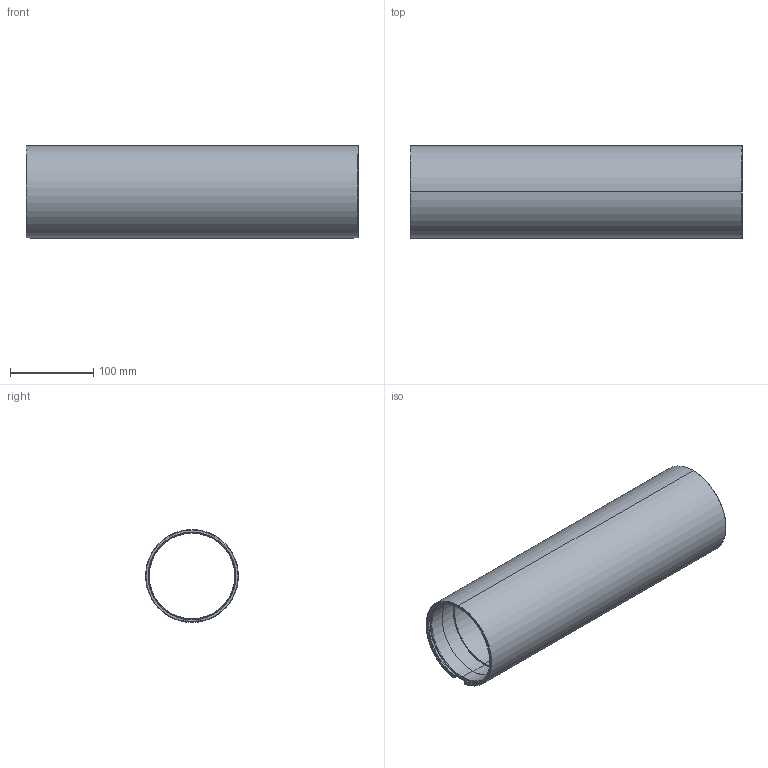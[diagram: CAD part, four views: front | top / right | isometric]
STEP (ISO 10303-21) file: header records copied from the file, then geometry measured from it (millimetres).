
FILE_DESCRIPTION (( 'STEP AP214' ), '1' );
FILE_NAME ('BR-100195-400_RevC.STEP', '2025-03-03T21:23:51', ( '' ), ( '' ), 'SwSTEP 2.0', 'SolidWorks 2024', '' );
FILE_SCHEMA (( 'AUTOMOTIVE_DESIGN' ));
Length unit declared in the file: millimetre
Products named in the file (1): BR-100195-400_RevC
Bounding box: 400 x 111.63 x 112 mm (x, y, z)
Volume: 573235.5 mm3; surface area: 274515.8 mm2
Topology: 1 solids, 1 shells, 94 faces, 240 edges, 150 vertices
Faces by surface type: cylinder 24, bspline 24, cone 18, plane 16, torus 12
Entity records: 5910 total; most frequent: CARTESIAN_POINT 3860, ORIENTED_EDGE 480, DIRECTION 342, EDGE_CURVE 240, VERTEX_POINT 150, AXIS2_PLACEMENT_3D 147, B_SPLINE_CURVE_WITH_KNOTS 112, EDGE_LOOP 98
